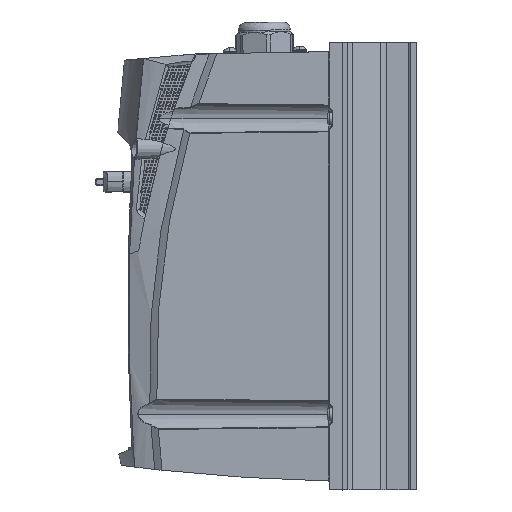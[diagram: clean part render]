
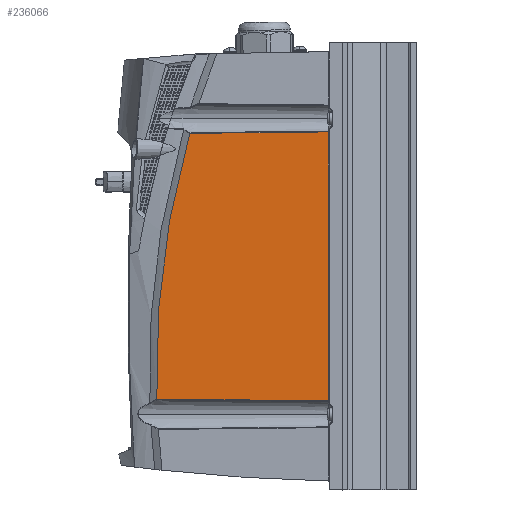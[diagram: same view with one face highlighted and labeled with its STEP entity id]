
A CAD part, left-side view. The second image highlights one B-rep face of the part: STEP entity #236066.
In plain terms, the highlighted planar face has unit normal (-1, 0.018, 0).
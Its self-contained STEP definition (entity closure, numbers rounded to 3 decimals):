
#236049=AXIS2_PLACEMENT_3D('Plane Axis2P3D',#236046,#236047,#236048) ;
#166020=CARTESIAN_POINT('Vertex',(-83.903,5.491,77.289)) ;
#166738=CARTESIAN_POINT('Vertex',(-82.513,85.127,76.449)) ;
#166742=CARTESIAN_POINT('Control Point',(-82.513,85.127,76.449)) ;
#166743=CARTESIAN_POINT('Control Point',(-82.977,58.582,76.715)) ;
#166744=CARTESIAN_POINT('Control Point',(-83.44,32.036,76.994)) ;
#166745=CARTESIAN_POINT('Control Point',(-83.903,5.491,77.289)) ;
#172437=CARTESIAN_POINT('Line Origine',(-83.903,5.491,0.)) ;
#172441=CARTESIAN_POINT('Vertex',(-83.903,5.491,-77.289)) ;
#220768=CARTESIAN_POINT('Vertex',(-82.183,104.038,-76.262)) ;
#220772=CARTESIAN_POINT('Control Point',(-82.183,104.042,-76.222)) ;
#220773=CARTESIAN_POINT('Control Point',(-82.184,104.041,-76.235)) ;
#220774=CARTESIAN_POINT('Control Point',(-82.184,104.039,-76.248)) ;
#220775=CARTESIAN_POINT('Control Point',(-82.183,104.038,-76.262)) ;
#220776=CARTESIAN_POINT('Vertex',(-82.183,104.042,-76.222)) ;
#220823=CARTESIAN_POINT('Control Point',(-82.513,85.128,76.449)) ;
#220824=CARTESIAN_POINT('Control Point',(-82.388,92.302,51.396)) ;
#220825=CARTESIAN_POINT('Control Point',(-82.209,102.568,0.779)) ;
#220826=CARTESIAN_POINT('Control Point',(-82.169,104.865,-50.809)) ;
#220827=CARTESIAN_POINT('Control Point',(-82.183,104.042,-76.222)) ;
#236046=CARTESIAN_POINT('Axis2P3D Location',(-84.001,-0.087,-128.5)) ;
#236052=CARTESIAN_POINT('Control Point',(-82.183,104.038,-76.262)) ;
#236053=CARTESIAN_POINT('Control Point',(-82.538,83.738,-76.461)) ;
#236054=CARTESIAN_POINT('Control Point',(-82.887,63.709,-76.663)) ;
#236055=CARTESIAN_POINT('Control Point',(-83.232,43.974,-76.868)) ;
#236056=CARTESIAN_POINT('Control Point',(-83.571,24.558,-77.077)) ;
#236057=CARTESIAN_POINT('Control Point',(-83.903,5.491,-77.289)) ;
#172438=DIRECTION('Vector Direction',(0.,0.,1.)) ;
#236047=DIRECTION('Axis2P3D Direction',(-1.,0.017,0.)) ;
#236048=DIRECTION('Axis2P3D XDirection',(-0.017,-1.,0.)) ;
#172439=VECTOR('Line Direction',#172438,1.) ;
#236060=ORIENTED_EDGE('',*,*,#172443,.T.) ;
#236061=ORIENTED_EDGE('',*,*,#166746,.T.) ;
#236062=ORIENTED_EDGE('',*,*,#220828,.F.) ;
#236063=ORIENTED_EDGE('',*,*,#220778,.T.) ;
#236064=ORIENTED_EDGE('',*,*,#236058,.T.) ;
#236066=ADVANCED_FACE('VERTIMO SIZE B',(#236065),#236050,.T.) ;
#220771=B_SPLINE_CURVE_WITH_KNOTS('',3,(#220772,#220773,#220774,#220775),.UNSPECIFIED.,.F.,.U.,(4,4),(0.,0.056),.UNSPECIFIED.) ;
#220822=B_SPLINE_CURVE_WITH_KNOTS('',3,(#220823,#220824,#220825,#220826,#220827),.UNSPECIFIED.,.F.,.U.,(4,1,4),(11.054,89.76,166.55),.UNSPECIFIED.) ;
#236051=B_SPLINE_CURVE_WITH_KNOTS('',5,(#236052,#236053,#236054,#236055,#236056,#236057),.UNSPECIFIED.,.F.,.U.,(6,6),(0.,139.417),.UNSPECIFIED.) ;
#166746=EDGE_CURVE('',#166021,#166739,#166741,.F.) ;
#172443=EDGE_CURVE('',#172442,#166021,#172440,.T.) ;
#220778=EDGE_CURVE('',#220777,#220769,#220771,.T.) ;
#220828=EDGE_CURVE('',#220777,#166739,#220822,.F.) ;
#236058=EDGE_CURVE('',#220769,#172442,#236051,.T.) ;
#236059=EDGE_LOOP('',(#236060,#236061,#236062,#236063,#236064)) ;
#236065=FACE_OUTER_BOUND('',#236059,.T.) ;
#172440=LINE('Line',#172437,#172439) ;
#236050=PLANE('Plane',#236049) ;
#166021=VERTEX_POINT('',#166020) ;
#166739=VERTEX_POINT('',#166738) ;
#172442=VERTEX_POINT('',#172441) ;
#220769=VERTEX_POINT('',#220768) ;
#220777=VERTEX_POINT('',#220776) ;
#166741=(BOUNDED_CURVE()B_SPLINE_CURVE(3,(#166742,#166743,#166744,#166745),.UNSPECIFIED.,.F.,.U.)B_SPLINE_CURVE_WITH_KNOTS((4,4),(0.528,80.18),.UNSPECIFIED.)CURVE()GEOMETRIC_REPRESENTATION_ITEM()RATIONAL_B_SPLINE_CURVE((1.,1.,1.,1.))REPRESENTATION_ITEM('')) ;
